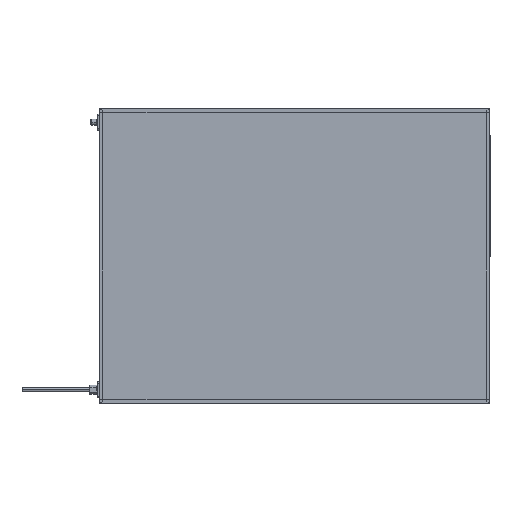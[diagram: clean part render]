
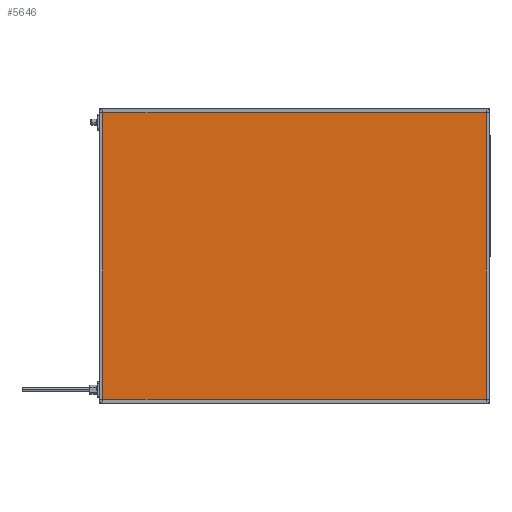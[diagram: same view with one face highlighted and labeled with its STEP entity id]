
A CAD part, top view. The second image highlights one B-rep face of the part: STEP entity #5646.
In plain terms, the highlighted planar face has unit normal (0, 0, 1).
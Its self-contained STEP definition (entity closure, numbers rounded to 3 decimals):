
#696 = FACE_OUTER_BOUND ( 'NONE', #5400, .T. ) ;
#2067 = CARTESIAN_POINT ( 'NONE',  ( 0., 0., 41.85 ) ) ;
#2257 = CARTESIAN_POINT ( 'NONE',  ( 796., 596., 41.85 ) ) ;
#2289 = VERTEX_POINT ( 'NONE', #11308 ) ;
#2576 = ORIENTED_EDGE ( 'NONE', *, *, #15954, .T. ) ;
#3814 = LINE ( 'NONE', #15215, #3872 ) ;
#3872 = VECTOR ( 'NONE', #14934, 1000. ) ;
#4001 = AXIS2_PLACEMENT_3D ( 'NONE', #2067, #5059, #17561 ) ;
#4979 = CARTESIAN_POINT ( 'NONE',  ( 796., 0., 41.85 ) ) ;
#5059 = DIRECTION ( 'NONE',  ( 0., 0., -1. ) ) ;
#5364 = LINE ( 'NONE', #11122, #8034 ) ;
#5400 = EDGE_LOOP ( 'NONE', ( #13943, #10377, #2576, #16116 ) ) ;
#5646 = ADVANCED_FACE ( 'NONE', ( #696 ), #11991, .F. ) ;
#5951 = CARTESIAN_POINT ( 'NONE',  ( 4., 4., 41.85 ) ) ;
#6772 = EDGE_CURVE ( 'NONE', #2289, #12131, #9092, .T. ) ;
#7989 = VERTEX_POINT ( 'NONE', #8986 ) ;
#8034 = VECTOR ( 'NONE', #9748, 1000. ) ;
#8986 = CARTESIAN_POINT ( 'NONE',  ( 4., 596., 41.85 ) ) ;
#9092 = LINE ( 'NONE', #4979, #15659 ) ;
#9748 = DIRECTION ( 'NONE',  ( -1., 0., 0. ) ) ;
#10226 = VERTEX_POINT ( 'NONE', #5951 ) ;
#10377 = ORIENTED_EDGE ( 'NONE', *, *, #17437, .T. ) ;
#10544 = DIRECTION ( 'NONE',  ( 0., 1., 0. ) ) ;
#11122 = CARTESIAN_POINT ( 'NONE',  ( 0., 596., 41.85 ) ) ;
#11308 = CARTESIAN_POINT ( 'NONE',  ( 796., 4., 41.85 ) ) ;
#11991 = PLANE ( 'NONE',  #4001 ) ;
#12131 = VERTEX_POINT ( 'NONE', #2257 ) ;
#13511 = DIRECTION ( 'NONE',  ( 1., 0., 0. ) ) ;
#13943 = ORIENTED_EDGE ( 'NONE', *, *, #6772, .T. ) ;
#14708 = CARTESIAN_POINT ( 'NONE',  ( 0., 4., 41.85 ) ) ;
#14934 = DIRECTION ( 'NONE',  ( 0., -1., 0. ) ) ;
#15215 = CARTESIAN_POINT ( 'NONE',  ( 4., 0., 41.85 ) ) ;
#15253 = VECTOR ( 'NONE', #13511, 1000. ) ;
#15659 = VECTOR ( 'NONE', #10544, 1000. ) ;
#15954 = EDGE_CURVE ( 'NONE', #7989, #10226, #3814, .T. ) ;
#16116 = ORIENTED_EDGE ( 'NONE', *, *, #16433, .T. ) ;
#16259 = LINE ( 'NONE', #14708, #15253 ) ;
#16433 = EDGE_CURVE ( 'NONE', #10226, #2289, #16259, .T. ) ;
#17437 = EDGE_CURVE ( 'NONE', #12131, #7989, #5364, .T. ) ;
#17561 = DIRECTION ( 'NONE',  ( -1., 0., 0. ) ) ;
